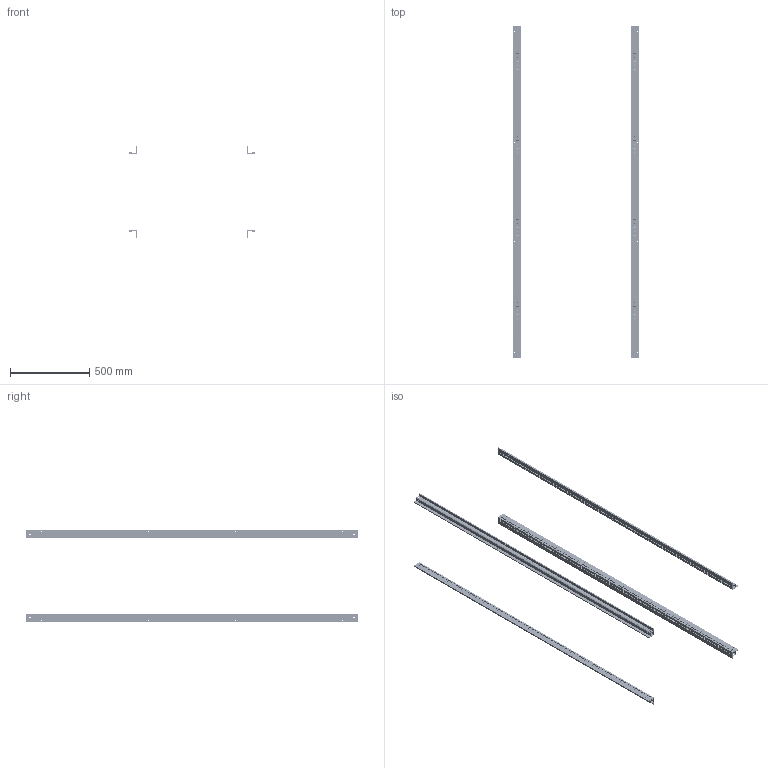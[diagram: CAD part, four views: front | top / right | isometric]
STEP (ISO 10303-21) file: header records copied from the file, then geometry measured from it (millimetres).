
FILE_DESCRIPTION(('Open CASCADE Model'),'2;1');
FILE_NAME('Open CASCADE Shape Model','2025-01-27T17:05:45',('Author'),( 'Open CASCADE'),'Open CASCADE STEP processor 7.8','Open CASCADE 7.8' ,'Unknown');
FILE_SCHEMA(('AUTOMOTIVE_DESIGN { 1 0 10303 214 1 1 1 1 }'));
Products named in the file (1): Solid1
Bounding box: 799.4 x 2099 x 585.4 mm (x, y, z)
Volume: 2039246 mm3; surface area: 3113693.1 mm2
Topology: 4 solids, 4 shells, 15544 faces, 45948 edges, 30744 vertices
Faces by surface type: cylinder 10136, plane 5408
Entity records: 537260 total; most frequent: DIRECTION 96806, CARTESIAN_POINT 93749, ORIENTED_EDGE 91896, EDGE_CURVE 45948, AXIS2_PLACEMENT_3D 35817, VERTEX_POINT 30744, LINE 25172, VECTOR 25172
